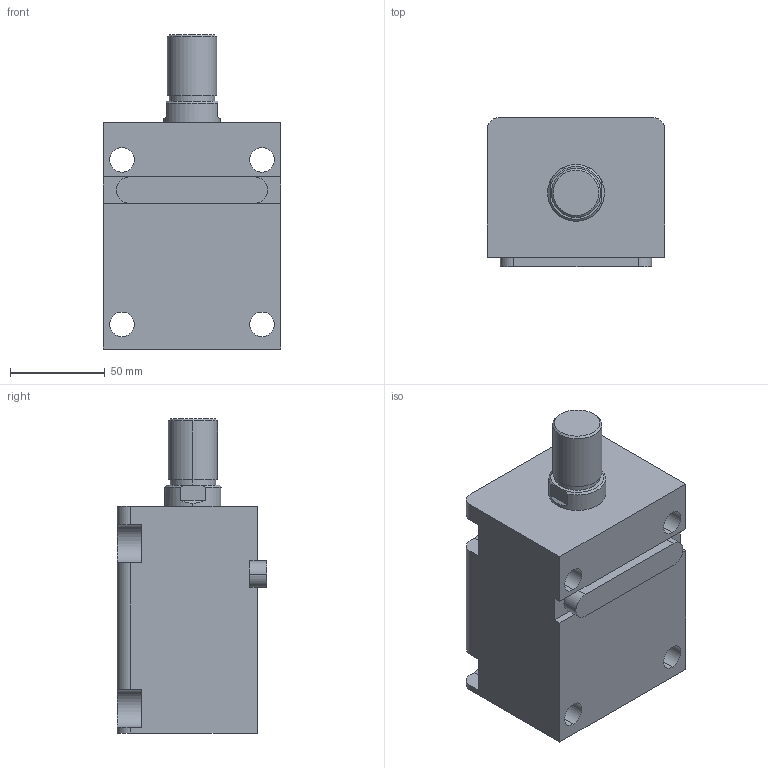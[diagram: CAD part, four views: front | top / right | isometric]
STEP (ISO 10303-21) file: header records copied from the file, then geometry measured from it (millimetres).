
FILE_DESCRIPTION (( 'STEP AP203' ), '1' );
FILE_NAME ('HTB-LA50-60W.STEP', '2019-10-09T07:11:25', ( '微软用户' ), ( '微软中国' ), 'SwSTEP 2.0', 'SolidWorks 2012', '' );
FILE_SCHEMA (( 'CONFIG_CONTROL_DESIGN' ));
Length unit declared in the file: millimetre
Products named in the file (4): HTB-LA50-60掛极; HTB-LA50-60W活塞杆; HTB-LA50-60W; HTB-LA50-瑩
Assembly tree (3 placements, depth 2):
  HTB-LA50-60W
    HTB-LA50-60掛极
    HTB-LA50-60W活塞杆
    HTB-LA50-瑩
Bounding box: 94 x 79 x 166 mm (x, y, z)
Volume: 734315.2 mm3; surface area: 106713.8 mm2
Topology: 3 solids, 3 shells, 90 faces, 219 edges, 144 vertices
Faces by surface type: plane 41, cylinder 37, cone 8, torus 4
Entity records: 3107 total; most frequent: DIRECTION 497, CARTESIAN_POINT 487, ORIENTED_EDGE 438, EDGE_CURVE 219, AXIS2_PLACEMENT_3D 190, VERTEX_POINT 144, LINE 117, VECTOR 117
